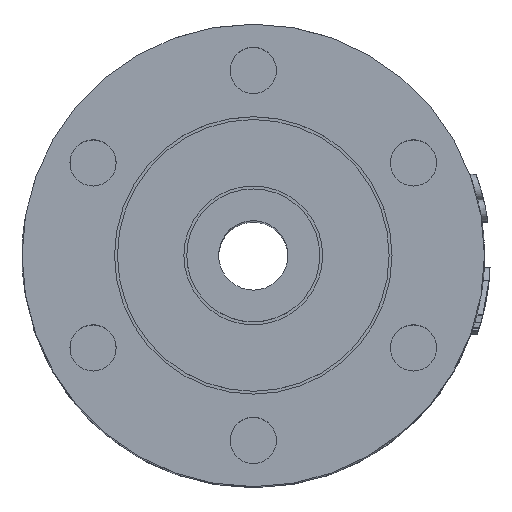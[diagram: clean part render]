
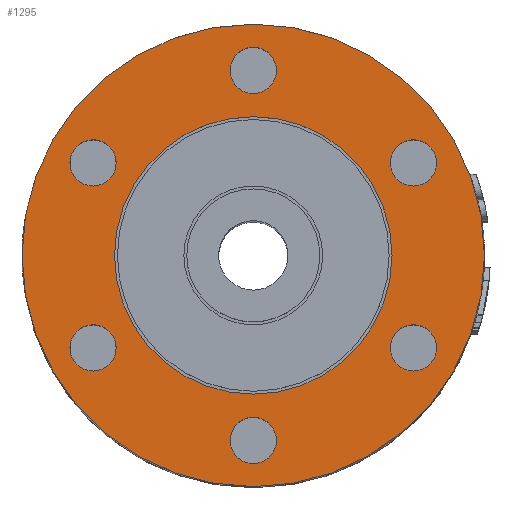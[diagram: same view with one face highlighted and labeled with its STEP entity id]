
A CAD part, top view. The second image highlights one B-rep face of the part: STEP entity #1295.
In plain terms, the highlighted planar face has unit normal (0, 0, 1).
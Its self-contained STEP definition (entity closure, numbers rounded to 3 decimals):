
#217=FACE_BOUND('',#2572,.T.);
#218=FACE_BOUND('',#2573,.T.);
#219=FACE_BOUND('',#2574,.T.);
#220=FACE_BOUND('',#2575,.T.);
#221=FACE_BOUND('',#2576,.T.);
#222=FACE_BOUND('',#2577,.T.);
#223=FACE_BOUND('',#2578,.T.);
#224=FACE_BOUND('',#2579,.T.);
#352=CIRCLE('',#7714,20.);
#385=CIRCLE('',#7752,12.);
#386=CIRCLE('',#7753,12.);
#387=CIRCLE('',#7754,2.);
#388=CIRCLE('',#7755,2.);
#389=CIRCLE('',#7756,2.);
#390=CIRCLE('',#7757,2.);
#391=CIRCLE('',#7758,2.);
#392=CIRCLE('',#7759,2.);
#393=CIRCLE('',#7760,2.);
#394=CIRCLE('',#7761,2.);
#395=CIRCLE('',#7762,2.);
#396=CIRCLE('',#7763,2.);
#397=CIRCLE('',#7764,2.);
#398=CIRCLE('',#7765,2.);
#767=PLANE('',#7766);
#1295=ADVANCED_FACE('',(#217,#218,#219,#220,#221,#222,#223,#224),#767,.T.);
#2572=EDGE_LOOP('',(#4122));
#2573=EDGE_LOOP('',(#4123,#4124));
#2574=EDGE_LOOP('',(#4125,#4126));
#2575=EDGE_LOOP('',(#4127,#4128));
#2576=EDGE_LOOP('',(#4129,#4130));
#2577=EDGE_LOOP('',(#4131,#4132));
#2578=EDGE_LOOP('',(#4133,#4134));
#2579=EDGE_LOOP('',(#4135,#4136));
#4122=ORIENTED_EDGE('',*,*,#6434,.T.);
#4123=ORIENTED_EDGE('',*,*,#6486,.F.);
#4124=ORIENTED_EDGE('',*,*,#6487,.F.);
#4125=ORIENTED_EDGE('',*,*,#6488,.F.);
#4126=ORIENTED_EDGE('',*,*,#6489,.F.);
#4127=ORIENTED_EDGE('',*,*,#6490,.F.);
#4128=ORIENTED_EDGE('',*,*,#6491,.F.);
#4129=ORIENTED_EDGE('',*,*,#6492,.F.);
#4130=ORIENTED_EDGE('',*,*,#6493,.F.);
#4131=ORIENTED_EDGE('',*,*,#6494,.F.);
#4132=ORIENTED_EDGE('',*,*,#6495,.F.);
#4133=ORIENTED_EDGE('',*,*,#6496,.F.);
#4134=ORIENTED_EDGE('',*,*,#6497,.F.);
#4135=ORIENTED_EDGE('',*,*,#6498,.F.);
#4136=ORIENTED_EDGE('',*,*,#6499,.F.);
#5462=VERTEX_POINT('',#28710);
#5512=VERTEX_POINT('',#28936);
#5513=VERTEX_POINT('',#28937);
#5514=VERTEX_POINT('',#28940);
#5515=VERTEX_POINT('',#28941);
#5516=VERTEX_POINT('',#28944);
#5517=VERTEX_POINT('',#28945);
#5518=VERTEX_POINT('',#28948);
#5519=VERTEX_POINT('',#28949);
#5520=VERTEX_POINT('',#28952);
#5521=VERTEX_POINT('',#28953);
#5522=VERTEX_POINT('',#28956);
#5523=VERTEX_POINT('',#28957);
#5524=VERTEX_POINT('',#28960);
#5525=VERTEX_POINT('',#28961);
#6434=EDGE_CURVE('',#5462,#5462,#352,.T.);
#6486=EDGE_CURVE('',#5512,#5513,#385,.T.);
#6487=EDGE_CURVE('',#5513,#5512,#386,.T.);
#6488=EDGE_CURVE('',#5514,#5515,#387,.T.);
#6489=EDGE_CURVE('',#5515,#5514,#388,.T.);
#6490=EDGE_CURVE('',#5516,#5517,#389,.T.);
#6491=EDGE_CURVE('',#5517,#5516,#390,.T.);
#6492=EDGE_CURVE('',#5518,#5519,#391,.T.);
#6493=EDGE_CURVE('',#5519,#5518,#392,.T.);
#6494=EDGE_CURVE('',#5520,#5521,#393,.T.);
#6495=EDGE_CURVE('',#5521,#5520,#394,.T.);
#6496=EDGE_CURVE('',#5522,#5523,#395,.T.);
#6497=EDGE_CURVE('',#5523,#5522,#396,.T.);
#6498=EDGE_CURVE('',#5524,#5525,#397,.T.);
#6499=EDGE_CURVE('',#5525,#5524,#398,.T.);
#7714=AXIS2_PLACEMENT_3D('',#28709,#8797,#8798);
#7752=AXIS2_PLACEMENT_3D('',#28935,#8887,#8888);
#7753=AXIS2_PLACEMENT_3D('',#28938,#8889,#8890);
#7754=AXIS2_PLACEMENT_3D('',#28939,#8891,#8892);
#7755=AXIS2_PLACEMENT_3D('',#28942,#8893,#8894);
#7756=AXIS2_PLACEMENT_3D('',#28943,#8895,#8896);
#7757=AXIS2_PLACEMENT_3D('',#28946,#8897,#8898);
#7758=AXIS2_PLACEMENT_3D('',#28947,#8899,#8900);
#7759=AXIS2_PLACEMENT_3D('',#28950,#8901,#8902);
#7760=AXIS2_PLACEMENT_3D('',#28951,#8903,#8904);
#7761=AXIS2_PLACEMENT_3D('',#28954,#8905,#8906);
#7762=AXIS2_PLACEMENT_3D('',#28955,#8907,#8908);
#7763=AXIS2_PLACEMENT_3D('',#28958,#8909,#8910);
#7764=AXIS2_PLACEMENT_3D('',#28959,#8911,#8912);
#7765=AXIS2_PLACEMENT_3D('',#28962,#8913,#8914);
#7766=AXIS2_PLACEMENT_3D('',#28963,#8915,#8916);
#8797=DIRECTION('',(0.,0.,1.));
#8798=DIRECTION('',(1.,0.,0.));
#8887=DIRECTION('',(0.,0.,1.));
#8888=DIRECTION('',(0.,1.,0.));
#8889=DIRECTION('',(0.,0.,1.));
#8890=DIRECTION('',(0.,-1.,0.));
#8891=DIRECTION('',(0.,0.,1.));
#8892=DIRECTION('',(-1.,0.,0.));
#8893=DIRECTION('',(0.,0.,1.));
#8894=DIRECTION('',(1.,0.,0.));
#8895=DIRECTION('',(0.,0.,1.));
#8896=DIRECTION('',(-0.5,-0.866,0.));
#8897=DIRECTION('',(0.,0.,1.));
#8898=DIRECTION('',(0.5,0.866,0.));
#8899=DIRECTION('',(0.,0.,1.));
#8900=DIRECTION('',(0.5,-0.866,0.));
#8901=DIRECTION('',(0.,0.,1.));
#8902=DIRECTION('',(-0.5,0.866,0.));
#8903=DIRECTION('',(0.,0.,1.));
#8904=DIRECTION('',(1.,0.,0.));
#8905=DIRECTION('',(0.,0.,1.));
#8906=DIRECTION('',(-1.,0.,0.));
#8907=DIRECTION('',(0.,0.,1.));
#8908=DIRECTION('',(0.5,0.866,0.));
#8909=DIRECTION('',(0.,0.,1.));
#8910=DIRECTION('',(-0.5,-0.866,0.));
#8911=DIRECTION('',(0.,0.,1.));
#8912=DIRECTION('',(-0.5,0.866,0.));
#8913=DIRECTION('',(0.,0.,1.));
#8914=DIRECTION('',(0.5,-0.866,0.));
#8915=DIRECTION('',(0.,0.,1.));
#8916=DIRECTION('',(-1.,0.,0.));
#28709=CARTESIAN_POINT('',(0.,0.,73.));
#28710=CARTESIAN_POINT('',(20.,0.,73.));
#28935=CARTESIAN_POINT('',(0.,0.,73.));
#28936=CARTESIAN_POINT('',(0.,12.,73.));
#28937=CARTESIAN_POINT('',(0.,-12.,73.));
#28938=CARTESIAN_POINT('',(0.,0.,73.));
#28939=CARTESIAN_POINT('',(0.,16.,73.));
#28940=CARTESIAN_POINT('',(-2.,16.,73.));
#28941=CARTESIAN_POINT('',(2.,16.,73.));
#28942=CARTESIAN_POINT('',(0.,16.,73.));
#28943=CARTESIAN_POINT('',(-13.856,8.,73.));
#28944=CARTESIAN_POINT('',(-14.856,6.268,73.));
#28945=CARTESIAN_POINT('',(-12.856,9.732,73.));
#28946=CARTESIAN_POINT('',(-13.856,8.,73.));
#28947=CARTESIAN_POINT('',(-13.856,-8.,73.));
#28948=CARTESIAN_POINT('',(-12.856,-9.732,73.));
#28949=CARTESIAN_POINT('',(-14.856,-6.268,73.));
#28950=CARTESIAN_POINT('',(-13.856,-8.,73.));
#28951=CARTESIAN_POINT('',(0.,-16.,73.));
#28952=CARTESIAN_POINT('',(2.,-16.,73.));
#28953=CARTESIAN_POINT('',(-2.,-16.,73.));
#28954=CARTESIAN_POINT('',(0.,-16.,73.));
#28955=CARTESIAN_POINT('',(13.856,-8.,73.));
#28956=CARTESIAN_POINT('',(14.856,-6.268,73.));
#28957=CARTESIAN_POINT('',(12.856,-9.732,73.));
#28958=CARTESIAN_POINT('',(13.856,-8.,73.));
#28959=CARTESIAN_POINT('',(13.856,8.,73.));
#28960=CARTESIAN_POINT('',(12.856,9.732,73.));
#28961=CARTESIAN_POINT('',(14.856,6.268,73.));
#28962=CARTESIAN_POINT('',(13.856,8.,73.));
#28963=CARTESIAN_POINT('',(0.,0.,73.));
